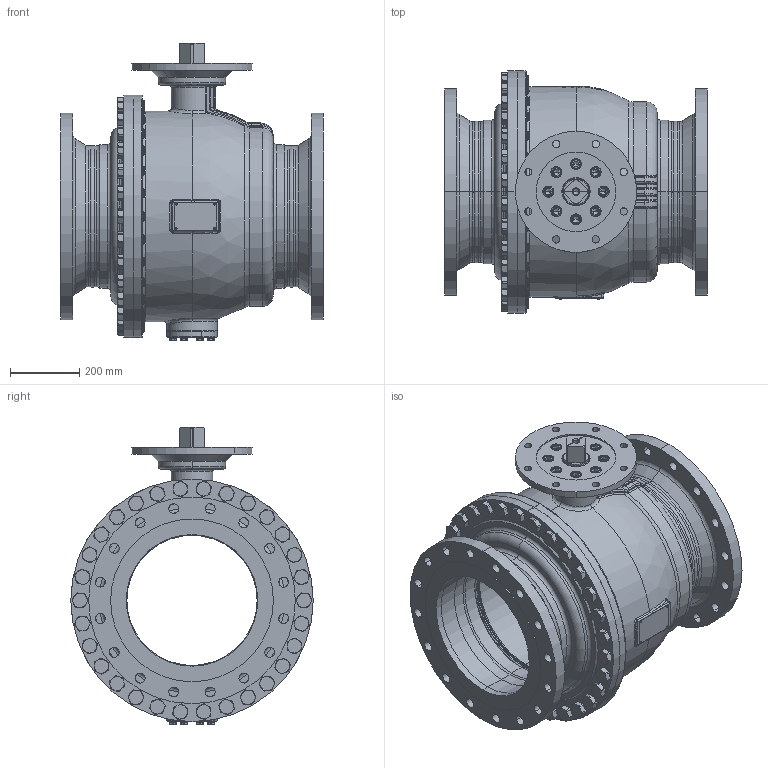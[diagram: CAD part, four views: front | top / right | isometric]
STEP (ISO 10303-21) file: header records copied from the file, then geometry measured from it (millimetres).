
FILE_DESCRIPTION((''),'2;1');
FILE_NAME('KHI-F_400_CL150-F30-4_SW0001','2026-02-05T16:41:26',('fischerkl'),('KLINGER'),'CREO PARAMETRIC BY PTC INC, 2023014','CREO PARAMETRIC BY PTC INC, 2023014','');
FILE_SCHEMA(('CONFIG_CONTROL_DESIGN'));
Products named in the file (1): KHI-F_400_CL150-F30-4_SW0001
Bounding box: 762 x 700 x 858.3 mm (x, y, z)
Volume: 56914608.1 mm3; surface area: 6918034.5 mm2
Topology: 1 solids, 4 shells, 3548 faces, 8934 edges, 5577 vertices
Faces by surface type: plane 1754, cylinder 849, cone 508, torus 307, bspline 99, sphere 31
Entity records: 151905 total; most frequent: CARTESIAN_POINT 67490, ORIENTED_EDGE 17816, DIRECTION 17489, EDGE_CURVE 8908, AXIS2_PLACEMENT_3D 6715, VERTEX_POINT 5577, VECTOR 4059, LINE 4059
